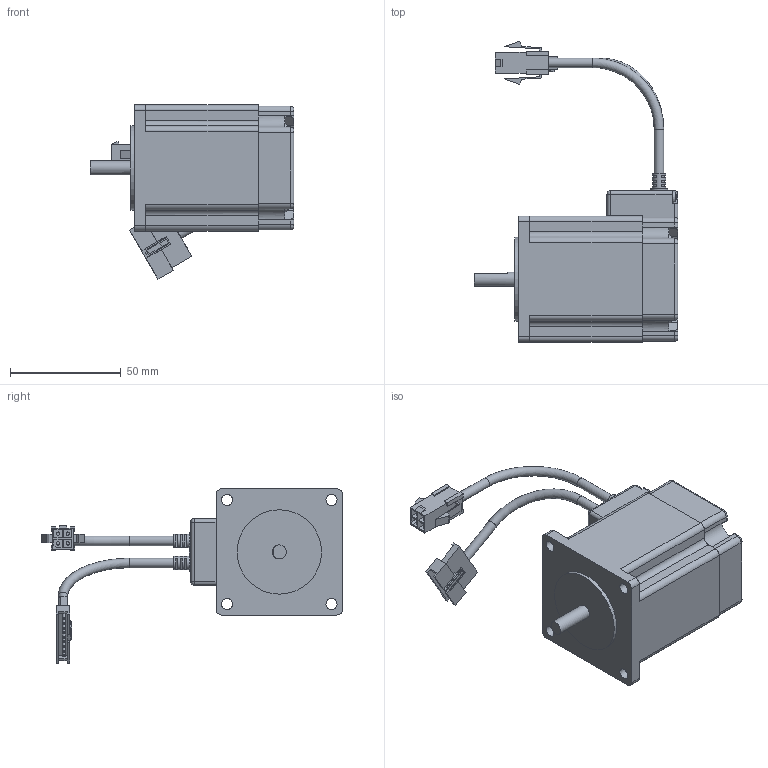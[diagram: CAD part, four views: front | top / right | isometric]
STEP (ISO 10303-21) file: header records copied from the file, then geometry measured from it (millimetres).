
FILE_DESCRIPTION(/* description */ (''),/* implementation_level */ '2;1');
FILE_NAME(/* name */ '\\EMN0D5F01\rp_inventor\RP Mechanical Design\Wiley\Updated Models\eCLM-S232F.stp',/* time_stamp */ '2016-10-27T15:47:34-07:00',/* author */ ('JDB'),/* organization */ ('Parker Hannifin Corp'),/* preprocessor_version */ 'ST-DEVELOPER v15.2',/* originating_system */ 'Autodesk Inventor 2014',/* authorisation */ '');
FILE_SCHEMA (('CONFIG_CONTROL_DESIGN'));
Products named in the file (1): eCLM-S232F_sw
Bounding box: 92 x 135.91 x 78.72 mm (x, y, z)
Volume: 192374.5 mm3; surface area: 44972.4 mm2
Topology: 3 solids, 3 shells, 3908 faces, 11419 edges, 7574 vertices
Faces by surface type: plane 3644, cylinder 155, bspline 52, cone 39, torus 10, sphere 8
Full cylindrical faces by diameter (mm): 1 x9, 1.5 x4, 1.6 x4, 2.1 x4, 2.3 x2, 2.5 x3, 4 x5, 4.3 x4, 5 x5, 6 x4, 6.35 x1, 8 x2, 9.2 x1, 17.5 x1, 38.1 x1
Entity records: 126989 total; most frequent: CARTESIAN_POINT 23793, ORIENTED_EDGE 22620, DIRECTION 19441, EDGE_CURVE 11308, LINE 10613, VECTOR 10613, VERTEX_POINT 7538, AXIS2_PLACEMENT_3D 4414
